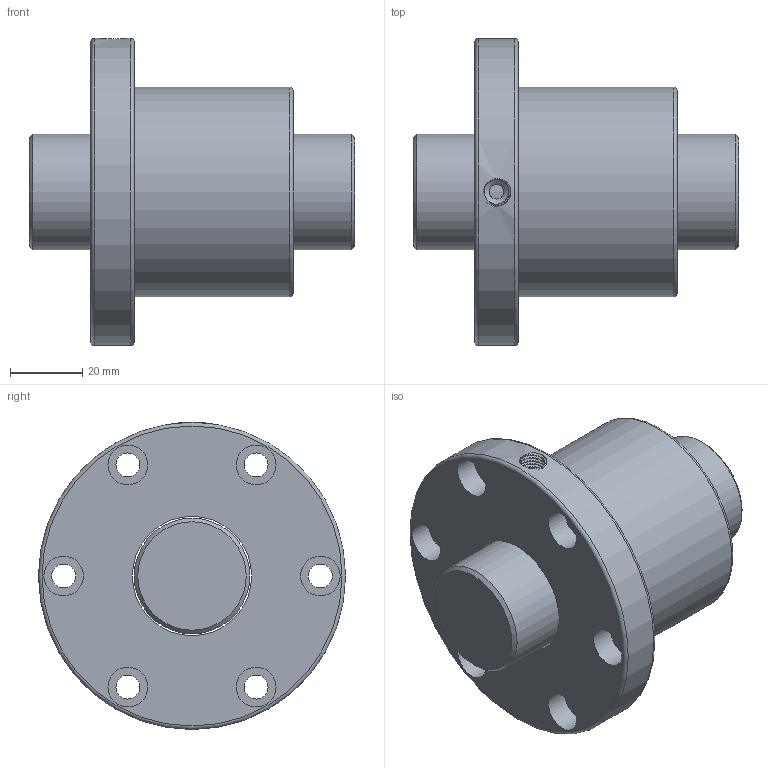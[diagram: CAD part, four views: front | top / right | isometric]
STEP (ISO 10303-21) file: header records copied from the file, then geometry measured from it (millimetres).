
FILE_DESCRIPTION(/* description */ ('Unknown','CAx-IF Rec.Pracs.---Representation and Presentation of Product Manufacturing Information (PMI)---4.0---2014-10-13','CAx-IF Rec.Pracs.---3D Tessellated Geometry---0.4---2014-09-14','2;1'),/* implementation_level */ '2;1');
FILE_NAME(/* name */ 'SFV3205-4.8',/* time_stamp */ '2020-12-08T10:45:59+08:00',/* author */ ('Unknown'),/* organization */ ('Unknown'),/* preprocessor_version */ 'ST-DEVELOPER v16.7',/* originating_system */ 'Solid Edge',/* authorisation */ 'Unknown');
FILE_SCHEMA (('AP242_MANAGED_MODEL_BASED_3D_ENGINEERING_MIM_LF { 1 0 10303 442 1 1 4 }'));
Length unit declared in the file: millimetre
Products named in the file (1): SFV3205-4.8
Bounding box: 90 x 85 x 85 mm (x, y, z)
Volume: 203169.3 mm3; surface area: 38989.2 mm2
Topology: 2 solids, 2 shells, 40 faces, 84 edges, 55 vertices
Faces by surface type: cylinder 20, plane 12, cone 3, torus 3, bspline 2
Full cylindrical faces by diameter (mm): 4 x1, 6.6 x6, 6.917 x1, 11 x6, 32 x1, 33 x1, 58 x1, 85 x1
Entity records: 3089 total; most frequent: CARTESIAN_POINT 2253, DIRECTION 168, ORIENTED_EDGE 106, EDGE_LOOP 87, FACE_BOUND 87, AXIS2_PLACEMENT_3D 85, EDGE_CURVE 53, VERTEX_POINT 48
